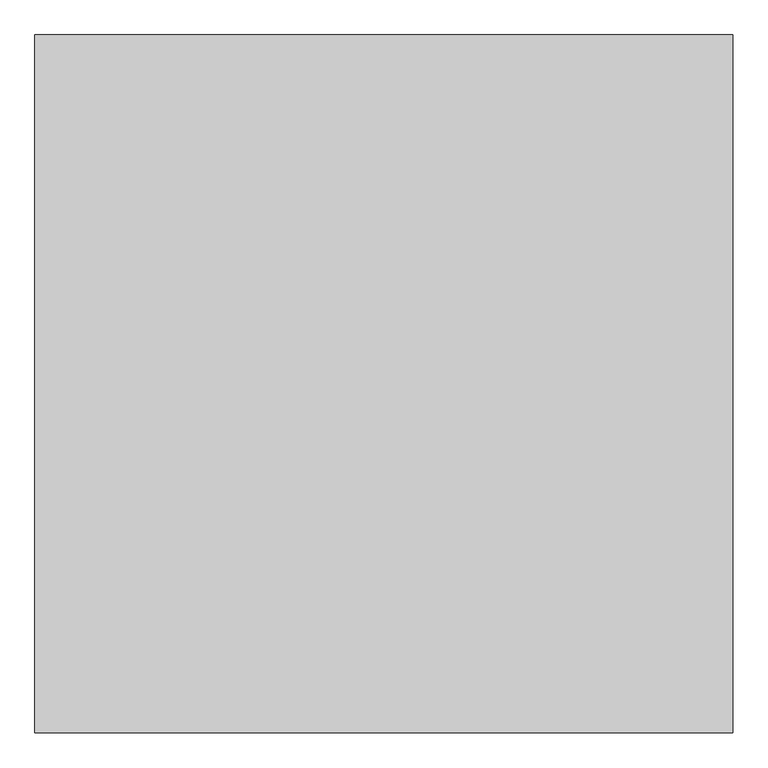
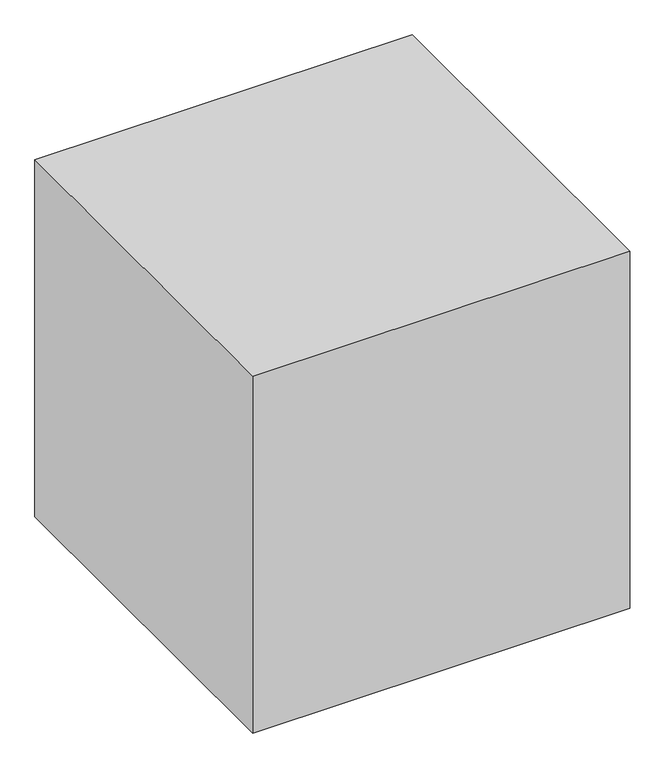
"""IFC4 building model written with IfcOpenShell, lengths in millimetres: proxy geometry, Куб(материал) : 1000х1000."""

from ifc_helpers import new_model, si_unit, origin, origin_with_axes, place, context, project, spatial, polyline, outline, extrude, source, transform, mapped, element, save


def generic_models_0168a45e(model_context):
    return source(origin(), model_context, "Body", "SweptSolid", [
        extrude(outline(polyline([(-1000.0, 0.0), (0.0, 0.0), (0.0, -1000.0), (-1000.0, -1000.0), (-1000.0, 0.0)])), origin_with_axes(), (0.0, 0.0, 1.0), 1000.0),
    ])


if __name__ == "__main__":
    model = new_model("IFC4")
    model_context = context("Model", 3, world=origin())
    ifc_project = project(units=[si_unit("LENGTHUNIT", "METRE", prefix="MILLI")], contexts=[model_context])
    site = spatial("IfcSite", under=ifc_project)
    building = spatial("IfcBuilding", under=site)
    placement = place(None, origin())
    generic_models_shape = generic_models_0168a45e(model_context)
    element("IfcBuildingElementProxy", 1, Name="Куб(материал) : 1000х1000", ObjectType="Куб(материал) : 1000х1000", at=placement, inside=building, context=model_context, shape_type="MappedRepresentation", body=[
        mapped(generic_models_shape, transform((0.0, 0.0, 0.0), x_axis=(1.0, 0.0, 0.0), y_axis=(0.0, 1.0, 0.0), z_axis=(0.0, 0.0, 1.0))),
    ])
    save(model, "model.ifc")
